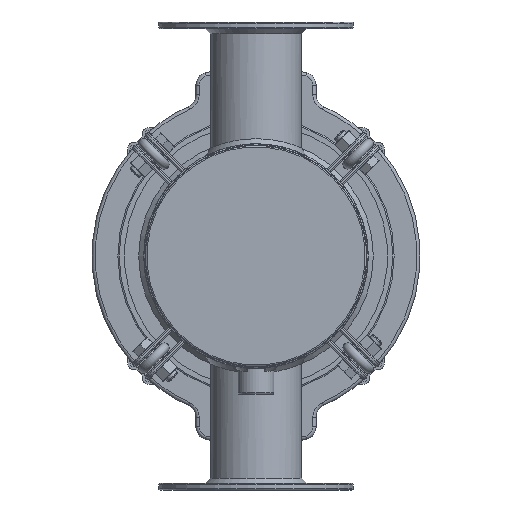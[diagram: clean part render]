
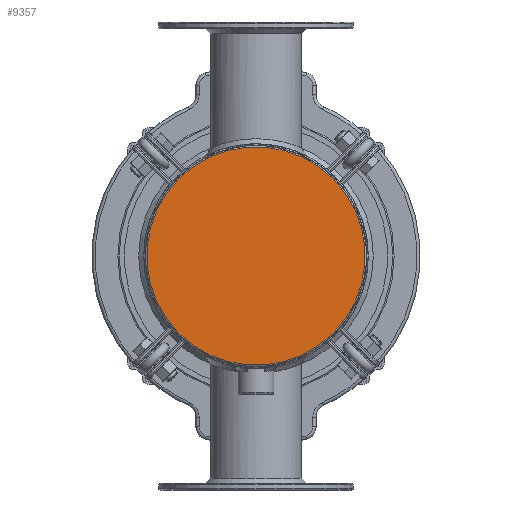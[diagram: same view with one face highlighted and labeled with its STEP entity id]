
A CAD part, front view. The second image highlights one B-rep face of the part: STEP entity #9357.
In plain terms, the highlighted planar face has unit normal (0, -1, 0).
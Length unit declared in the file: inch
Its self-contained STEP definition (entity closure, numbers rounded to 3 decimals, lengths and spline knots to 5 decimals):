
#936=CIRCLE('',#10076,4.2);
#1946=FACE_OUTER_BOUND('',#2604,.T.);
#2604=EDGE_LOOP('',(#6917));
#4495=VERTEX_POINT('',#17100);
#5388=EDGE_CURVE('',#4495,#4495,#936,.T.);
#6917=ORIENTED_EDGE('',*,*,#5388,.F.);
#9103=PLANE('',#10079);
#9357=ADVANCED_FACE('',(#1946),#9103,.F.);
#10076=AXIS2_PLACEMENT_3D('',#17101,#11707,#11708);
#10079=AXIS2_PLACEMENT_3D('',#17105,#11713,#11714);
#11707=DIRECTION('center_axis',(0.,1.,0.));
#11708=DIRECTION('ref_axis',(1.,0.,0.));
#11713=DIRECTION('center_axis',(0.,1.,0.));
#11714=DIRECTION('ref_axis',(0.,0.,1.));
#17100=CARTESIAN_POINT('',(-4.2,0.,0.));
#17101=CARTESIAN_POINT('Origin',(0.,0.,0.));
#17105=CARTESIAN_POINT('Origin',(0.,0.,0.));
